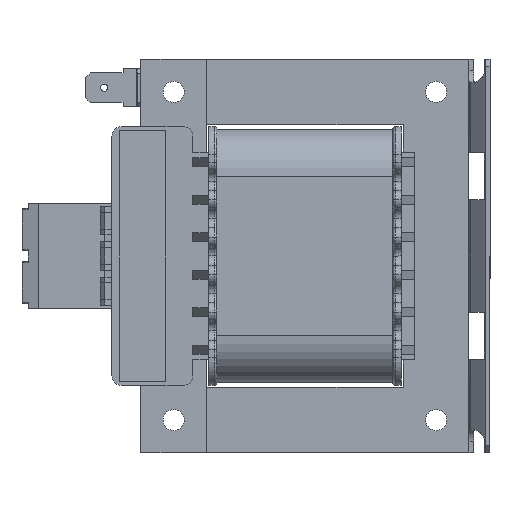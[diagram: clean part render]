
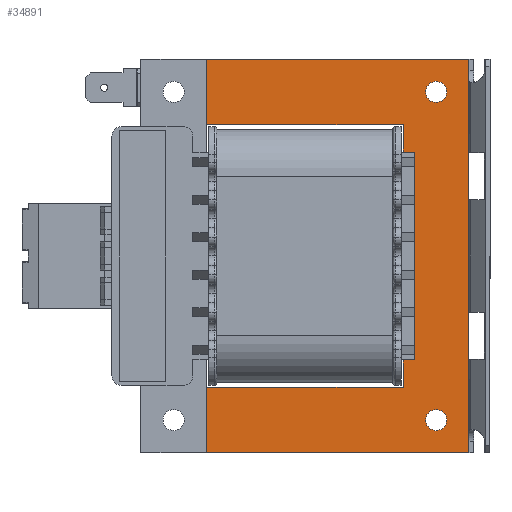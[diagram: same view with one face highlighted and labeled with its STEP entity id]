
A CAD part, left-side view. The second image highlights one B-rep face of the part: STEP entity #34891.
In plain terms, the highlighted planar face has unit normal (-1, 0, 0).
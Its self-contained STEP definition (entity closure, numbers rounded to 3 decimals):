
#153 = LINE ( 'NONE', #59797, #20905 ) ;
#301 = FACE_BOUND ( 'NONE', #46042, .T. ) ;
#449 = LINE ( 'NONE', #79319, #21199 ) ;
#849 = DIRECTION ( 'NONE',  ( 0., 0., 1. ) ) ;
#1653 = CARTESIAN_POINT ( 'NONE',  ( -14.75, 7., -35. ) ) ;
#3549 = CARTESIAN_POINT ( 'NONE',  ( -14.75, 14., -28. ) ) ;
#3871 = EDGE_CURVE ( 'NONE', #58510, #44418, #25633, .T. ) ;
#4533 = CARTESIAN_POINT ( 'NONE',  ( -14.75, 56., -28. ) ) ;
#4968 = VERTEX_POINT ( 'NONE', #77986 ) ;
#5939 = VECTOR ( 'NONE', #52338, 1000. ) ;
#6164 = VERTEX_POINT ( 'NONE', #96482 ) ;
#6265 = CARTESIAN_POINT ( 'NONE',  ( -14.75, 56., -14. ) ) ;
#6443 = LINE ( 'NONE', #26978, #45473 ) ;
#8127 = EDGE_CURVE ( 'NONE', #61266, #58510, #67046, .T. ) ;
#9466 = DIRECTION ( 'NONE',  ( 0., 0., -1. ) ) ;
#10633 = AXIS2_PLACEMENT_3D ( 'NONE', #1653, #56135, #9466 ) ;
#10812 = ORIENTED_EDGE ( 'NONE', *, *, #74844, .F. ) ;
#12482 = CARTESIAN_POINT ( 'NONE',  ( -14.75, 14., 28. ) ) ;
#12903 = PLANE ( 'NONE',  #28844 ) ;
#13469 = EDGE_CURVE ( 'NONE', #51013, #61266, #153, .T. ) ;
#14728 = EDGE_LOOP ( 'NONE', ( #66108 ) ) ;
#15730 = CARTESIAN_POINT ( 'NONE',  ( -14.75, 56., 14. ) ) ;
#16326 = ORIENTED_EDGE ( 'NONE', *, *, #58664, .F. ) ;
#16593 = CARTESIAN_POINT ( 'NONE',  ( -14.75, 7., 32.75 ) ) ;
#17616 = EDGE_CURVE ( 'NONE', #75974, #39596, #6443, .T. ) ;
#18903 = DIRECTION ( 'NONE',  ( 0., 0., 1. ) ) ;
#20407 = EDGE_CURVE ( 'NONE', #6164, #33463, #47732, .T. ) ;
#20775 = DIRECTION ( 'NONE',  ( 0., 0., -1. ) ) ;
#20905 = VECTOR ( 'NONE', #86001, 1000. ) ;
#21091 = VERTEX_POINT ( 'NONE', #64581 ) ;
#21199 = VECTOR ( 'NONE', #40289, 1000. ) ;
#23726 = CARTESIAN_POINT ( 'NONE',  ( -14.75, 0., -42. ) ) ;
#24435 = ORIENTED_EDGE ( 'NONE', *, *, #99594, .F. ) ;
#25633 = LINE ( 'NONE', #50234, #43855 ) ;
#25731 = VECTOR ( 'NONE', #68896, 1000. ) ;
#25938 = ORIENTED_EDGE ( 'NONE', *, *, #20407, .F. ) ;
#26698 = LINE ( 'NONE', #50262, #65576 ) ;
#26700 = EDGE_CURVE ( 'NONE', #92068, #92068, #69478, .T. ) ;
#26978 = CARTESIAN_POINT ( 'NONE',  ( -14.75, 14., 28. ) ) ;
#27025 = VECTOR ( 'NONE', #93617, 1000. ) ;
#27144 = LINE ( 'NONE', #70640, #84275 ) ;
#27445 = ORIENTED_EDGE ( 'NONE', *, *, #17616, .F. ) ;
#27446 = VERTEX_POINT ( 'NONE', #98728 ) ;
#27668 = ORIENTED_EDGE ( 'NONE', *, *, #3871, .F. ) ;
#27805 = CARTESIAN_POINT ( 'NONE',  ( -14.75, 56., -28. ) ) ;
#28844 = AXIS2_PLACEMENT_3D ( 'NONE', #59577, #67370, #20775 ) ;
#32033 = EDGE_CURVE ( 'NONE', #74825, #27446, #27144, .T. ) ;
#33463 = VERTEX_POINT ( 'NONE', #99453 ) ;
#33794 = LINE ( 'NONE', #45830, #54518 ) ;
#34745 = DIRECTION ( 'NONE',  ( 0., 1., 0. ) ) ;
#34891 = ADVANCED_FACE ( 'NONE', ( #301, #80688, #60020 ), #12903, .F. ) ;
#35516 = DIRECTION ( 'NONE',  ( 0., -1., 0. ) ) ;
#36687 = CARTESIAN_POINT ( 'NONE',  ( -14.75, 0., 42. ) ) ;
#37949 = DIRECTION ( 'NONE',  ( 0., 0., 1. ) ) ;
#39596 = VERTEX_POINT ( 'NONE', #48632 ) ;
#39742 = DIRECTION ( 'NONE',  ( 1., 0., 0. ) ) ;
#40289 = DIRECTION ( 'NONE',  ( 0., 0., 1. ) ) ;
#41224 = VECTOR ( 'NONE', #35516, 1000. ) ;
#43073 = EDGE_CURVE ( 'NONE', #27446, #21091, #33794, .T. ) ;
#43855 = VECTOR ( 'NONE', #50309, 1000. ) ;
#44418 = VERTEX_POINT ( 'NONE', #27805 ) ;
#45394 = ORIENTED_EDGE ( 'NONE', *, *, #8127, .F. ) ;
#45473 = VECTOR ( 'NONE', #34745, 1000. ) ;
#45830 = CARTESIAN_POINT ( 'NONE',  ( -14.75, 14., -14. ) ) ;
#46042 = EDGE_LOOP ( 'NONE', ( #69523 ) ) ;
#47463 = AXIS2_PLACEMENT_3D ( 'NONE', #86254, #39742, #94083 ) ;
#47732 = LINE ( 'NONE', #15730, #27025 ) ;
#47924 = ORIENTED_EDGE ( 'NONE', *, *, #65838, .F. ) ;
#48632 = CARTESIAN_POINT ( 'NONE',  ( -14.75, 56., 28. ) ) ;
#48670 = CIRCLE ( 'NONE', #47463, 2.25 ) ;
#49955 = EDGE_CURVE ( 'NONE', #21091, #6164, #77130, .T. ) ;
#50234 = CARTESIAN_POINT ( 'NONE',  ( -14.75, 56., -42. ) ) ;
#50262 = CARTESIAN_POINT ( 'NONE',  ( -14.75, 14., 14. ) ) ;
#50309 = DIRECTION ( 'NONE',  ( 0., 0., 1. ) ) ;
#51013 = VERTEX_POINT ( 'NONE', #36687 ) ;
#51653 = VECTOR ( 'NONE', #37949, 1000. ) ;
#52338 = DIRECTION ( 'NONE',  ( 0., -1., 0. ) ) ;
#54518 = VECTOR ( 'NONE', #84192, 1000. ) ;
#55108 = CARTESIAN_POINT ( 'NONE',  ( -14.75, 7., -37.25 ) ) ;
#56135 = DIRECTION ( 'NONE',  ( 1., 0., 0. ) ) ;
#58510 = VERTEX_POINT ( 'NONE', #80436 ) ;
#58664 = EDGE_CURVE ( 'NONE', #44418, #74825, #61885, .T. ) ;
#58782 = CARTESIAN_POINT ( 'NONE',  ( -14.75, 0., -42. ) ) ;
#59577 = CARTESIAN_POINT ( 'NONE',  ( -14.75, 56., -28. ) ) ;
#59797 = CARTESIAN_POINT ( 'NONE',  ( -14.75, 0., 42. ) ) ;
#60020 = FACE_OUTER_BOUND ( 'NONE', #86047, .T. ) ;
#61266 = VERTEX_POINT ( 'NONE', #58782 ) ;
#61885 = LINE ( 'NONE', #4533, #41224 ) ;
#64080 = VERTEX_POINT ( 'NONE', #16593 ) ;
#64581 = CARTESIAN_POINT ( 'NONE',  ( -14.75, 56., -14. ) ) ;
#65576 = VECTOR ( 'NONE', #18903, 1000. ) ;
#65617 = LINE ( 'NONE', #83231, #5939 ) ;
#65838 = EDGE_CURVE ( 'NONE', #39596, #4968, #449, .T. ) ;
#66108 = ORIENTED_EDGE ( 'NONE', *, *, #74573, .T. ) ;
#67046 = LINE ( 'NONE', #23726, #25731 ) ;
#67370 = DIRECTION ( 'NONE',  ( 1., 0., 0. ) ) ;
#68896 = DIRECTION ( 'NONE',  ( 0., 1., 0. ) ) ;
#69478 = CIRCLE ( 'NONE', #10633, 2.25 ) ;
#69523 = ORIENTED_EDGE ( 'NONE', *, *, #26700, .T. ) ;
#70090 = ORIENTED_EDGE ( 'NONE', *, *, #32033, .F. ) ;
#70158 = ORIENTED_EDGE ( 'NONE', *, *, #49955, .F. ) ;
#70640 = CARTESIAN_POINT ( 'NONE',  ( -14.75, 14., -28. ) ) ;
#74573 = EDGE_CURVE ( 'NONE', #64080, #64080, #48670, .T. ) ;
#74825 = VERTEX_POINT ( 'NONE', #3549 ) ;
#74844 = EDGE_CURVE ( 'NONE', #33463, #75974, #26698, .T. ) ;
#75974 = VERTEX_POINT ( 'NONE', #12482 ) ;
#76429 = ORIENTED_EDGE ( 'NONE', *, *, #43073, .F. ) ;
#77130 = LINE ( 'NONE', #6265, #51653 ) ;
#77986 = CARTESIAN_POINT ( 'NONE',  ( -14.75, 56., 42. ) ) ;
#79319 = CARTESIAN_POINT ( 'NONE',  ( -14.75, 56., 28. ) ) ;
#80436 = CARTESIAN_POINT ( 'NONE',  ( -14.75, 56., -42. ) ) ;
#80688 = FACE_BOUND ( 'NONE', #14728, .T. ) ;
#83231 = CARTESIAN_POINT ( 'NONE',  ( -14.75, 56., 42. ) ) ;
#84192 = DIRECTION ( 'NONE',  ( 0., 1., 0. ) ) ;
#84275 = VECTOR ( 'NONE', #849, 1000. ) ;
#86001 = DIRECTION ( 'NONE',  ( 0., 0., -1. ) ) ;
#86022 = ORIENTED_EDGE ( 'NONE', *, *, #13469, .F. ) ;
#86047 = EDGE_LOOP ( 'NONE', ( #47924, #27445, #10812, #25938, #70158, #76429, #70090, #16326, #27668, #45394, #86022, #24435 ) ) ;
#86254 = CARTESIAN_POINT ( 'NONE',  ( -14.75, 7., 35. ) ) ;
#92068 = VERTEX_POINT ( 'NONE', #55108 ) ;
#93617 = DIRECTION ( 'NONE',  ( 0., -1., 0. ) ) ;
#94083 = DIRECTION ( 'NONE',  ( 0., 0., -1. ) ) ;
#96482 = CARTESIAN_POINT ( 'NONE',  ( -14.75, 56., 14. ) ) ;
#98728 = CARTESIAN_POINT ( 'NONE',  ( -14.75, 14., -14. ) ) ;
#99453 = CARTESIAN_POINT ( 'NONE',  ( -14.75, 14., 14. ) ) ;
#99594 = EDGE_CURVE ( 'NONE', #4968, #51013, #65617, .T. ) ;
